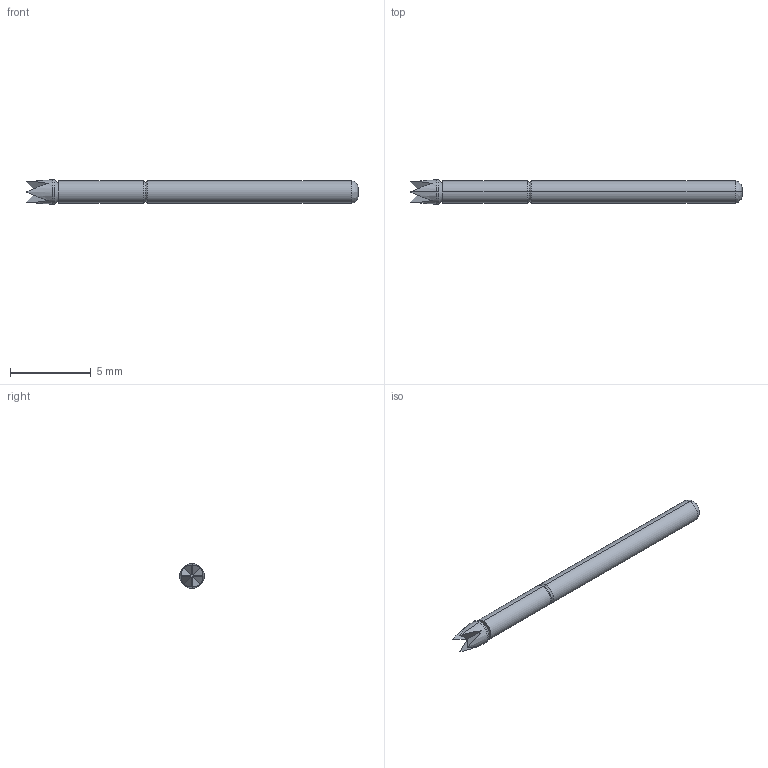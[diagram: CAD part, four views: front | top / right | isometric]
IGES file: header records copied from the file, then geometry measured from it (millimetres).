
Start section: SolidWorks IGES file using analytic representation for surfaces
Global section: file name: Z:\probe solid model mockups\Solidworks models\IGES Files\EPA-2\EPA-2L Full.IGS; native system: SolidWorks 2006 by SolidWorks Corporation; preprocessor: SolidWorks 2006 by SolidWorks Corporation; author: tsakatani; date: 071220.162326; units: inch
Bounding box: 20.57 x 1.52 x 1.52 mm (x, y, z)
Surface area: 92 mm2 (no closed solid volume)
Topology: 0 solids, 0 shells, 26 faces, 166 edges, 166 vertices
Faces by surface type: bspline 16, revolution 10
